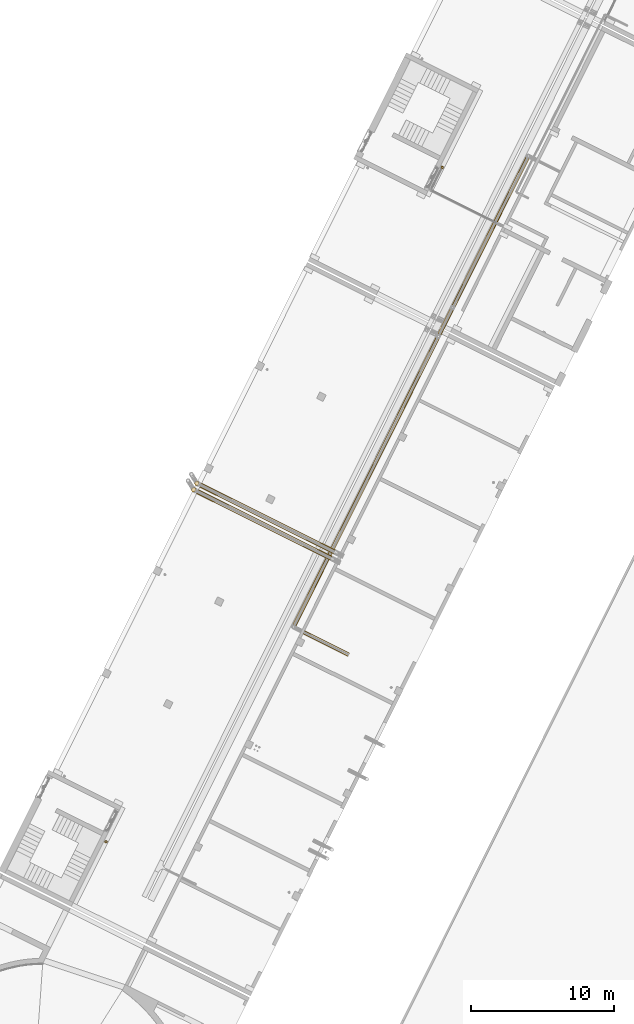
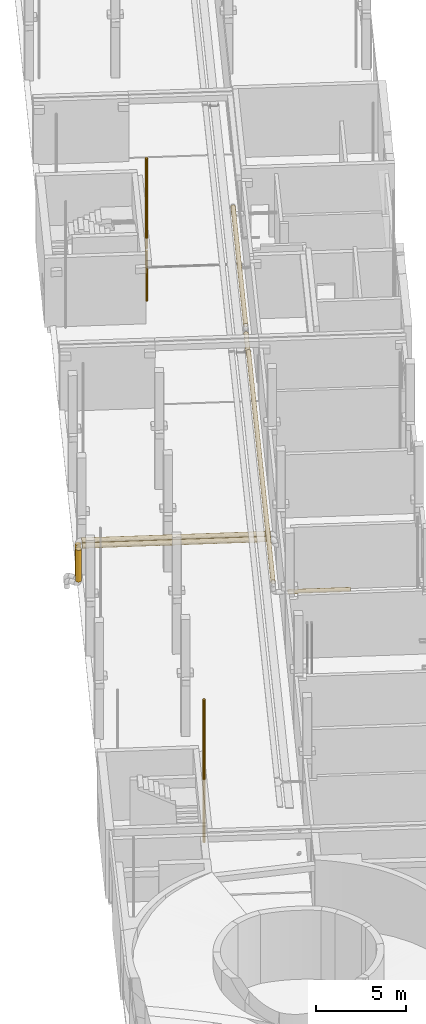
# One storey, part 32 of 91: 11 coverings.
"""IFC2X3 building model written with IfcOpenShell, lengths in metres."""

from ifc_helpers import new_model, entity, si_unit, converted_unit, derived_unit, direction, frame, frame_2d, origin, origin_2d_with_axis, place, context, subcontext, project, spatial, circle, extrude, element, save


model = new_model("IFC2X3")

# Units and contexts
model_context = context("Model", 3, precision=1e-05, world=origin(), true_north=direction((0.894925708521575, 0.446215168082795)))
context_of_model = context(None, 3, precision=1e-05, world=origin(), true_north=direction((0.894925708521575, 0.446215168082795)))
body_context = subcontext(model_context, "Body", "Model", "MODEL_VIEW")
ifc_project = project(units=[si_unit("LENGTHUNIT", "METRE"), si_unit("AREAUNIT", "SQUARE_METRE"), si_unit("VOLUMEUNIT", "CUBIC_METRE"), converted_unit("PLANEANGLEUNIT", "DEGREE", entity("IfcRatioMeasure", 0.0174532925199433), si_unit("PLANEANGLEUNIT", "RADIAN"), dimensions=[0, 0, 0, 0, 0, 0, 0]), si_unit("MASSUNIT", "GRAM", prefix="KILO"), si_unit("TIMEUNIT", "SECOND"), si_unit("FREQUENCYUNIT", "HERTZ"), si_unit("THERMODYNAMICTEMPERATUREUNIT", "DEGREE_CELSIUS"), derived_unit("THERMALTRANSMITTANCEUNIT", [(si_unit("MASSUNIT", "GRAM", prefix="KILO"), 1), (si_unit("THERMODYNAMICTEMPERATUREUNIT", "KELVIN"), -1), (si_unit("TIMEUNIT", "SECOND"), -3)]), derived_unit("VOLUMETRICFLOWRATEUNIT", [(si_unit("LENGTHUNIT", "METRE"), 3), (si_unit("TIMEUNIT", "SECOND"), -1)]), si_unit("ELECTRICCURRENTUNIT", "AMPERE"), si_unit("ELECTRICVOLTAGEUNIT", "VOLT"), si_unit("POWERUNIT", "WATT"), si_unit("FORCEUNIT", "NEWTON", prefix="KILO"), si_unit("ILLUMINANCEUNIT", "LUX"), si_unit("LUMINOUSFLUXUNIT", "LUMEN"), si_unit("LUMINOUSINTENSITYUNIT", "CANDELA"), si_unit("PRESSUREUNIT", "PASCAL")], contexts=[model_context, context_of_model])

# Site, building, storey
site_placement = place(None, frame((218.228324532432, 584.720189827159, 0.0), z_axis=(0.0, 0.0, 1.0), x_axis=(0.446215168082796, 0.894925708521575, 0.0)))
site = spatial("IfcSite", under=ifc_project, at=site_placement, Name="Default", CompositionType="ELEMENT")
building_placement = place(site_placement, origin())
building = spatial("IfcBuilding", under=site, at=building_placement, CompositionType="ELEMENT")
storey_placement = place(building_placement, origin())
storey = spatial("IfcBuildingStorey", under=building, at=storey_placement, Name="0 - Piano Terra", CompositionType="ELEMENT", Elevation=0.0)

# Coverings
covering_1_placement = place(storey_placement, frame((-30.3033532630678, 5.9777885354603, 0.702999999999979)))
element("IfcCovering", 1, at=covering_1_placement, inside=storey, Name="Isolamento tubazione:Default", ObjectType="Isolamento tubazione:Default", PredefinedType="INSULATION", context=body_context, shape_type="SweptSolid", body=[
    extrude(circle(Radius=0.1595375, at=origin_2d_with_axis()), frame((0.161132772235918, 0.161132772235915, 0.0), z_axis=(0.0, 0.0, 1.0), x_axis=(-1.0, 0.0, 0.0)), (0.0, 0.0, 1.0), 2.17000000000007),
])
covering_2_placement = place(storey_placement, frame((-30.3033532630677, -4.59574555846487, 2.91486722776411)))
element("IfcCovering", 2, at=covering_2_placement, inside=storey, Name="Isolamento tubazione:Default", ObjectType="Isolamento tubazione:Default", PredefinedType="INSULATION", context=body_context, shape_type="SweptSolid", body=[
    extrude(circle(Radius=0.1595375, at=frame_2d((4.33146851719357e-14, -1.13701048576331e-14), x_axis=(1.0, 0.0))), frame((0.161132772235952, 0.0, 0.161132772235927), z_axis=(0.0, 1.0, 0.0), x_axis=(1.0, 0.0, 0.0)), (0.0, 0.0, 1.0), 10.5316668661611),
])
covering_3_placement = place(storey_placement, frame((-30.8033532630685, 5.9777885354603, 0.702999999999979)))
element("IfcCovering", 3, at=covering_3_placement, inside=storey, Name="Isolamento tubazione:Default", ObjectType="Isolamento tubazione:Default", PredefinedType="INSULATION", context=body_context, shape_type="SweptSolid", body=[
    extrude(circle(Radius=0.1595375, at=origin_2d_with_axis()), frame((0.161132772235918, 0.161132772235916, 0.0), z_axis=(0.0, 0.0, 1.0), x_axis=(-1.0, 0.0, 0.0)), (0.0, 0.0, 1.0), 2.17000000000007),
])
covering_4_placement = place(storey_placement, frame((-30.8033532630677, -4.59574555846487, 2.91486722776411)))
element("IfcCovering", 4, at=covering_4_placement, inside=storey, Name="Isolamento tubazione:Default", ObjectType="Isolamento tubazione:Default", PredefinedType="INSULATION", context=body_context, shape_type="SweptSolid", body=[
    extrude(circle(Radius=0.1595375, at=frame_2d((3.89832166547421e-14, -1.13701048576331e-14), x_axis=(1.0, 0.0))), frame((0.161132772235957, 0.0, 0.161132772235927), z_axis=(0.0, 1.0, 0.0), x_axis=(1.0, 0.0, 0.0)), (0.0, 0.0, 1.0), 10.5316668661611),
])
covering_5_placement = place(storey_placement, frame((-36.258585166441, -8.7010789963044, 3.16426722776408)))
element("IfcCovering", 5, at=covering_5_placement, inside=storey, Name="Isolamento tubazione:Default", ObjectType="Isolamento tubazione:Default", PredefinedType="INSULATION", context=body_context, shape_type="SweptSolid", body=[
    extrude(circle(Radius=0.1341375, at=origin_2d_with_axis()), frame((0.135732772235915, 0.0, 0.135732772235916), z_axis=(0.0, 1.0, 0.0), x_axis=(-1.0, 0.0, 0.0)), (0.0, 0.0, 1.0), 3.5),
])
covering_6_placement = place(storey_placement, frame((-35.9708523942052, -4.52094926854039, 3.76426722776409)))
element("IfcCovering", 6, at=covering_6_placement, inside=storey, Name="Isolamento tubazione:Default", ObjectType="Isolamento tubazione:Default", PredefinedType="INSULATION", context=body_context, shape_type="SweptSolid", body=[
    extrude(circle(Radius=0.1341375, at=origin_2d_with_axis()), frame((0.0, 0.135732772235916, 0.135732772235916), z_axis=(1.0, 0.0, 0.0), x_axis=(0.0, -1.0, 0.0)), (0.0, 0.0, 1.0), 22.3897783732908),
])
covering_7_placement = place(storey_placement, frame((-13.2770740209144, -4.52094926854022, 3.41426722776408)))
element("IfcCovering", 7, at=covering_7_placement, inside=storey, Name="Isolamento tubazione:Default", ObjectType="Isolamento tubazione:Default", PredefinedType="INSULATION", context=body_context, shape_type="SweptSolid", body=[
    extrude(circle(Radius=0.1341375, at=frame_2d((5.41433564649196e-16, 0.0), x_axis=(1.0, 0.0))), frame((0.0, 0.135732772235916, 0.135732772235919), z_axis=(1.0, 0.0, 0.0), x_axis=(0.0, 1.0, 0.0)), (0.0, 0.0, 1.0), 1.94600000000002),
])
covering_8_placement = place(storey_placement, frame((-11.0270740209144, -4.52094926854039, 3.76426722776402)))
element("IfcCovering", 8, at=covering_8_placement, inside=storey, Name="Isolamento tubazione:Default", ObjectType="Isolamento tubazione:Default", PredefinedType="INSULATION", context=body_context, shape_type="SweptSolid", body=[
    extrude(circle(Radius=0.1341375, at=frame_2d((0.0, -5.41433564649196e-16), x_axis=(1.0, 0.0))), frame((0.0, 0.135732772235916, 0.135732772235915), z_axis=(1.0, 0.0, 0.0), x_axis=(0.0, -1.0, 0.0)), (0.0, 0.0, 1.0), 11.5323759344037),
])
covering_9_placement = place(storey_placement, frame((-55.4712070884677, 0.56716323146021, 0.0)))
element("IfcCovering", 9, at=covering_9_placement, inside=storey, Name="Isolamento tubazione:Default", ObjectType="Isolamento tubazione:Default", PredefinedType="INSULATION", context=body_context, shape_type="SweptSolid", body=[
    extrude(circle(Radius=0.0801625, at=frame_2d((8.66293703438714e-15, 6.76791955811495e-16), x_axis=(1.0, 0.0))), frame((0.0817577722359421, 0.081757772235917, 0.0)), (0.0, 0.0, 1.0), 9.69999999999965),
])
covering_10_placement = place(storey_placement, frame((-2.82754279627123, 0.567163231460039, 3.56399939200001)))
element("IfcCovering", 10, at=covering_10_placement, inside=storey, Name="Isolamento tubazione:Default", ObjectType="Isolamento tubazione:Default", PredefinedType="INSULATION", context=body_context, shape_type="SweptSolid", body=[
    extrude(circle(Radius=0.0801625, at=origin_2d_with_axis()), frame((0.0817577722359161, 0.0817577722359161, 0.0), z_axis=(0.0, 0.0, 1.0), x_axis=(-1.0, 0.0, 0.0)), (0.0, 0.0, 1.0), 6.13600060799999),
])
covering_11_placement = place(storey_placement, frame((-2.82754279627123, 0.567163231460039, 0.0)))
element("IfcCovering", 11, at=covering_11_placement, inside=storey, Name="Isolamento tubazione:Default", ObjectType="Isolamento tubazione:Default", PredefinedType="INSULATION", context=body_context, shape_type="SweptSolid", body=[
    extrude(circle(Radius=0.0801625, at=frame_2d((-1.08286712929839e-15, -5.41433564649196e-16), x_axis=(1.0, 0.0))), frame((0.0817577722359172, 0.0817577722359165, 0.0)), (0.0, 0.0, 1.0), 3.43599939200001),
])

save(model, "model.ifc")
